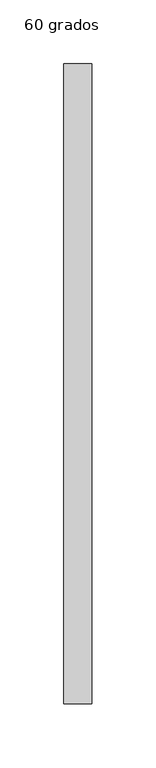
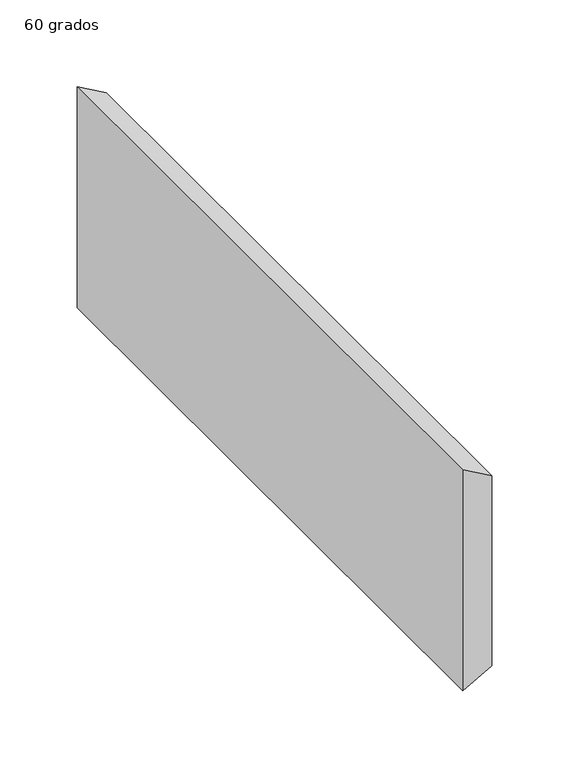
"""IFC4 building model written with IfcOpenShell, lengths in millimetres: duct fitting geometry, M_Transición rectangular - Ángulo : 60 grados."""

from ifc_helpers import new_model, si_unit, frame, origin, place, context, project, spatial, polyline, outline, extrude, source, transform, mapped, element, save


def duct_fitting_60_grados_4bf537a9(model_context):
    return source(origin(), model_context, "Body", "SweptSolid", [
        extrude(outline(polyline([(87.5, 0.0), (-87.5, 0.0), (-75.0, 21.6506351), (75.0, 21.6506351), (87.5, 0.0)])), frame((0.0, -250.0, 0.0), z_axis=(0.0, 1.0, 0.0), x_axis=(0.0, 0.0, 1.0)), (0.0, 0.0, 1.0), 500.0),
    ])


if __name__ == "__main__":
    model = new_model("IFC4")
    model_context = context("Model", 3, world=origin())
    ifc_project = project(units=[si_unit("LENGTHUNIT", "METRE", prefix="MILLI")], contexts=[model_context])
    site = spatial("IfcSite", under=ifc_project)
    building = spatial("IfcBuilding", under=site)
    placement = place(None, origin())
    duct_fitting_60_grados_shape = duct_fitting_60_grados_4bf537a9(model_context)
    element("IfcDuctFitting", 1, ObjectType="M_Transición rectangular - Ángulo : 60 grados", at=placement, inside=building, context=model_context, shape_type="MappedRepresentation", body=[
        mapped(duct_fitting_60_grados_shape, transform((0.0, 0.0, 0.0), x_axis=(1.0, 0.0, 0.0), y_axis=(0.0, 1.0, 0.0), z_axis=(0.0, 0.0, 1.0))),
    ])
    save(model, "model.ifc")
